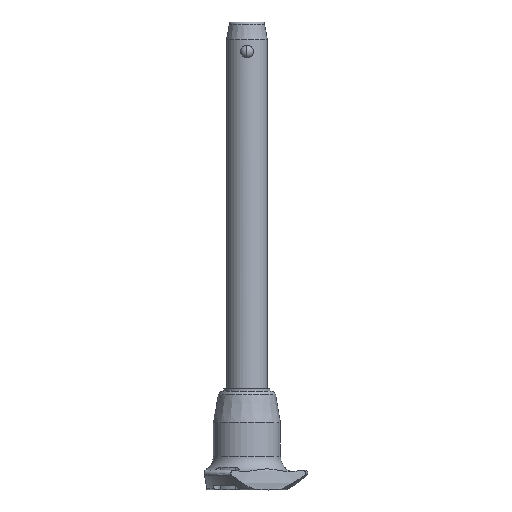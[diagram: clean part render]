
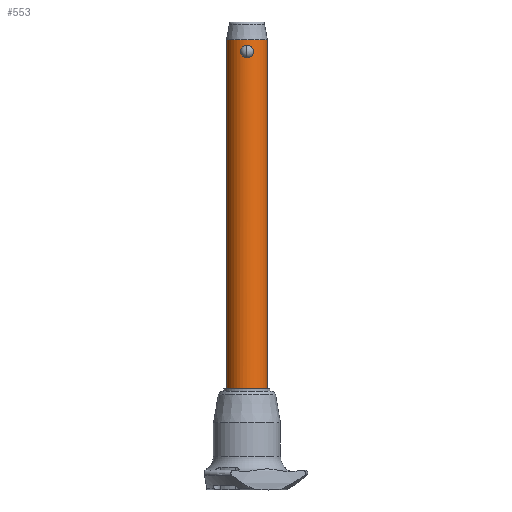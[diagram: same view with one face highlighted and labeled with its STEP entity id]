
A CAD part, front view. The second image highlights one B-rep face of the part: STEP entity #553.
In plain terms, the highlighted cylindrical face has radius 8 mm (diameter 16 mm), a partial arc.
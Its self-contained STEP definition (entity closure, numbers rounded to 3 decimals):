
#3 = CARTESIAN_POINT ( 'NONE',  ( 0.645, -7.976, 4.704 ) ) ;
#39 = CARTESIAN_POINT ( 'NONE',  ( -2.016, -7.746, 0.883 ) ) ;
#50 = CARTESIAN_POINT ( 'NONE',  ( -2.276, -7.67, 3.482 ) ) ;
#67 = CARTESIAN_POINT ( 'NONE',  ( -2.547, -7.584, 2.229 ) ) ;
#143 = CARTESIAN_POINT ( 'NONE',  ( -8., 0., -130. ) ) ;
#169 = DIRECTION ( 'NONE',  ( 1., 0., 0. ) ) ;
#183 = CYLINDRICAL_SURFACE ( 'NONE', #1982, 8. ) ;
#186 = CARTESIAN_POINT ( 'NONE',  ( -8., 0., 7. ) ) ;
#200 = CARTESIAN_POINT ( 'NONE',  ( 0.326, -7.995, 4.761 ) ) ;
#215 = CARTESIAN_POINT ( 'NONE',  ( 1.105, -7.925, 0.226 ) ) ;
#236 = CARTESIAN_POINT ( 'NONE',  ( -8., 0., -130. ) ) ;
#257 = AXIS2_PLACEMENT_3D ( 'NONE', #862, #1530, #1505 ) ;
#278 = ORIENTED_EDGE ( 'NONE', *, *, #306, .T. ) ;
#288 = CARTESIAN_POINT ( 'NONE',  ( -1.658, -7.827, 4.216 ) ) ;
#300 = CARTESIAN_POINT ( 'NONE',  ( 0., -8., 4.775 ) ) ;
#306 = EDGE_CURVE ( 'NONE', #961, #1549, #2758, .T. ) ;
#414 = CARTESIAN_POINT ( 'NONE',  ( 2.275, -7.67, 1.291 ) ) ;
#425 = CARTESIAN_POINT ( 'NONE',  ( 2.194, -7.694, 1.153 ) ) ;
#461 = CARTESIAN_POINT ( 'NONE',  ( -1.659, -7.827, 0.559 ) ) ;
#469 = CIRCLE ( 'NONE', #2840, 8. ) ;
#505 = CARTESIAN_POINT ( 'NONE',  ( 0., -8., 0. ) ) ;
#509 = DIRECTION ( 'NONE',  ( 1., 0., 0. ) ) ;
#525 = B_SPLINE_CURVE_WITH_KNOTS ( 'NONE', 3,
 ( #1882, #2770, #770, #215, #1050, #2415, #633, #1308, #2427, #425, #414, #843, #873, #1740, #1086, #1291, #1950, #1980, #2189, #1765, #2861, #1528, #1515, #860, #2839, #2203, #3, #200, #1069, #1966 ),
 .UNSPECIFIED., .F., .F.,
 ( 4, 2, 2, 2, 2, 2, 2, 2, 2, 2, 2, 2, 2, 2, 4 ),
 ( 0.008, 0.009, 0.009, 0.01, 0.01, 0.011, 0.011, 0.012, 0.012, 0.013, 0.014, 0.014, 0.015, 0.015, 0.016 ),
 .UNSPECIFIED. ) ;
#553 = ADVANCED_FACE ( 'NONE', ( #2833, #565 ), #183, .T. ) ;
#565 = FACE_BOUND ( 'NONE', #2863, .T. ) ;
#633 = CARTESIAN_POINT ( 'NONE',  ( 1.657, -7.827, 0.558 ) ) ;
#653 = CARTESIAN_POINT ( 'NONE',  ( 8., 0., 7. ) ) ;
#683 = CARTESIAN_POINT ( 'NONE',  ( -1.107, -7.924, 4.548 ) ) ;
#708 = CARTESIAN_POINT ( 'NONE',  ( -2.546, -7.584, 2.553 ) ) ;
#770 = CARTESIAN_POINT ( 'NONE',  ( 0.652, -7.979, 0.058 ) ) ;
#822 = CARTESIAN_POINT ( 'NONE',  ( 0., 0., -130. ) ) ;
#843 = CARTESIAN_POINT ( 'NONE',  ( 2.408, -7.629, 1.586 ) ) ;
#860 = CARTESIAN_POINT ( 'NONE',  ( 1.253, -7.903, 4.478 ) ) ;
#862 = CARTESIAN_POINT ( 'NONE',  ( 0., 0., 7. ) ) ;
#873 = CARTESIAN_POINT ( 'NONE',  ( 2.46, -7.613, 1.742 ) ) ;
#908 = CARTESIAN_POINT ( 'NONE',  ( -2.193, -7.694, 3.623 ) ) ;
#935 = CARTESIAN_POINT ( 'NONE',  ( -0.324, -8., 0. ) ) ;
#950 = CARTESIAN_POINT ( 'NONE',  ( -2.461, -7.612, 1.746 ) ) ;
#955 = DIRECTION ( 'NONE',  ( 0., 0., -1. ) ) ;
#961 = VERTEX_POINT ( 'NONE', #653 ) ;
#1006 = DIRECTION ( 'NONE',  ( 0., 0., 1. ) ) ;
#1050 = CARTESIAN_POINT ( 'NONE',  ( 1.252, -7.903, 0.296 ) ) ;
#1069 = CARTESIAN_POINT ( 'NONE',  ( 0.164, -8., 4.775 ) ) ;
#1086 = CARTESIAN_POINT ( 'NONE',  ( 2.546, -7.584, 2.22 ) ) ;
#1128 = CARTESIAN_POINT ( 'NONE',  ( -2.529, -7.59, 2.064 ) ) ;
#1144 = ORIENTED_EDGE ( 'NONE', *, *, #1514, .F. ) ;
#1152 = CARTESIAN_POINT ( 'NONE',  ( -2.003, -7.746, 3.882 ) ) ;
#1161 = CARTESIAN_POINT ( 'NONE',  ( 0., 0., -130. ) ) ;
#1180 = CARTESIAN_POINT ( 'NONE',  ( 0., -8., 4.775 ) ) ;
#1291 = CARTESIAN_POINT ( 'NONE',  ( 2.547, -7.584, 2.549 ) ) ;
#1308 = CARTESIAN_POINT ( 'NONE',  ( 1.894, -7.773, 0.773 ) ) ;
#1346 = CARTESIAN_POINT ( 'NONE',  ( -2.459, -7.613, 3.036 ) ) ;
#1353 = VECTOR ( 'NONE', #2824, 1000. ) ;
#1378 = CARTESIAN_POINT ( 'NONE',  ( -0.645, -7.976, 4.704 ) ) ;
#1404 = EDGE_CURVE ( 'NONE', #2584, #1679, #469, .T. ) ;
#1433 = LINE ( 'NONE', #143, #1353 ) ;
#1462 = EDGE_CURVE ( 'NONE', #2584, #961, #2380, .T. ) ;
#1505 = DIRECTION ( 'NONE',  ( 1., 0., 0. ) ) ;
#1514 = EDGE_CURVE ( 'NONE', #2323, #2026, #525, .T. ) ;
#1515 = CARTESIAN_POINT ( 'NONE',  ( 1.529, -7.854, 4.312 ) ) ;
#1528 = CARTESIAN_POINT ( 'NONE',  ( 1.66, -7.827, 4.215 ) ) ;
#1530 = DIRECTION ( 'NONE',  ( 0., 0., -1. ) ) ;
#1549 = VERTEX_POINT ( 'NONE', #186 ) ;
#1570 = CARTESIAN_POINT ( 'NONE',  ( -1.252, -7.903, 4.479 ) ) ;
#1581 = CARTESIAN_POINT ( 'NONE',  ( -2.211, -7.69, 1.148 ) ) ;
#1595 = CARTESIAN_POINT ( 'NONE',  ( -1.254, -7.902, 0.297 ) ) ;
#1599 = ORIENTED_EDGE ( 'NONE', *, *, #1404, .F. ) ;
#1612 = CARTESIAN_POINT ( 'NONE',  ( -2.411, -7.628, 1.592 ) ) ;
#1679 = VERTEX_POINT ( 'NONE', #236 ) ;
#1740 = CARTESIAN_POINT ( 'NONE',  ( 2.528, -7.59, 2.058 ) ) ;
#1765 = CARTESIAN_POINT ( 'NONE',  ( 2.211, -7.69, 3.626 ) ) ;
#1777 = VECTOR ( 'NONE', #2366, 1000. ) ;
#1786 = EDGE_CURVE ( 'NONE', #1679, #1549, #1433, .T. ) ;
#1788 = CARTESIAN_POINT ( 'NONE',  ( 0., -8., 0. ) ) ;
#1803 = CARTESIAN_POINT ( 'NONE',  ( -1.896, -7.773, 4.001 ) ) ;
#1805 = EDGE_LOOP ( 'NONE', ( #2873, #1599, #2330, #278 ) ) ;
#1834 = CARTESIAN_POINT ( 'NONE',  ( -0.326, -7.995, 4.761 ) ) ;
#1844 = CARTESIAN_POINT ( 'NONE',  ( -1.106, -7.925, 0.226 ) ) ;
#1882 = CARTESIAN_POINT ( 'NONE',  ( 0., -8., 0. ) ) ;
#1950 = CARTESIAN_POINT ( 'NONE',  ( 2.529, -7.59, 2.71 ) ) ;
#1966 = CARTESIAN_POINT ( 'NONE',  ( 0., -8., 4.775 ) ) ;
#1980 = CARTESIAN_POINT ( 'NONE',  ( 2.461, -7.612, 3.027 ) ) ;
#1982 = AXIS2_PLACEMENT_3D ( 'NONE', #822, #1006, #169 ) ;
#2026 = VERTEX_POINT ( 'NONE', #1180 ) ;
#2030 = CARTESIAN_POINT ( 'NONE',  ( -0.164, -8., 4.775 ) ) ;
#2042 = CARTESIAN_POINT ( 'NONE',  ( -2.529, -7.59, 2.716 ) ) ;
#2065 = EDGE_CURVE ( 'NONE', #2026, #2323, #2077, .T. ) ;
#2077 = B_SPLINE_CURVE_WITH_KNOTS ( 'NONE', 3,
 ( #300, #2030, #1834, #1378, #2723, #683, #1570, #2471, #288, #1803, #1152, #908, #50, #2707, #1346, #2042, #708, #67, #1128, #950, #1612, #1581, #39, #461, #2511, #1595, #1844, #2496, #935, #505 ),
 .UNSPECIFIED., .F., .F.,
 ( 4, 2, 2, 2, 2, 2, 2, 2, 2, 2, 2, 2, 2, 2, 4 ),
 ( 0., 0., 0.001, 0.001, 0.002, 0.002, 0.003, 0.003, 0.004, 0.004, 0.005, 0.006, 0.006, 0.007, 0.008 ),
 .UNSPECIFIED. ) ;
#2189 = CARTESIAN_POINT ( 'NONE',  ( 2.41, -7.629, 3.184 ) ) ;
#2203 = CARTESIAN_POINT ( 'NONE',  ( 0.804, -7.961, 4.661 ) ) ;
#2259 = ORIENTED_EDGE ( 'NONE', *, *, #2065, .F. ) ;
#2310 = CARTESIAN_POINT ( 'NONE',  ( 8., 0., -130. ) ) ;
#2323 = VERTEX_POINT ( 'NONE', #1788 ) ;
#2330 = ORIENTED_EDGE ( 'NONE', *, *, #1462, .T. ) ;
#2334 = CARTESIAN_POINT ( 'NONE',  ( 8., 0., -130. ) ) ;
#2366 = DIRECTION ( 'NONE',  ( 0., 0., 1. ) ) ;
#2380 = LINE ( 'NONE', #2334, #1777 ) ;
#2415 = CARTESIAN_POINT ( 'NONE',  ( 1.529, -7.854, 0.463 ) ) ;
#2427 = CARTESIAN_POINT ( 'NONE',  ( 2.004, -7.746, 0.894 ) ) ;
#2471 = CARTESIAN_POINT ( 'NONE',  ( -1.527, -7.854, 4.313 ) ) ;
#2496 = CARTESIAN_POINT ( 'NONE',  ( -0.652, -7.979, 0.058 ) ) ;
#2511 = CARTESIAN_POINT ( 'NONE',  ( -1.53, -7.854, 0.464 ) ) ;
#2584 = VERTEX_POINT ( 'NONE', #2310 ) ;
#2707 = CARTESIAN_POINT ( 'NONE',  ( -2.408, -7.629, 3.189 ) ) ;
#2723 = CARTESIAN_POINT ( 'NONE',  ( -0.803, -7.961, 4.661 ) ) ;
#2758 = CIRCLE ( 'NONE', #257, 8. ) ;
#2770 = CARTESIAN_POINT ( 'NONE',  ( 0.324, -8., 0. ) ) ;
#2824 = DIRECTION ( 'NONE',  ( 0., 0., 1. ) ) ;
#2833 = FACE_OUTER_BOUND ( 'NONE', #1805, .T. ) ;
#2839 = CARTESIAN_POINT ( 'NONE',  ( 1.108, -7.924, 4.548 ) ) ;
#2840 = AXIS2_PLACEMENT_3D ( 'NONE', #1161, #955, #509 ) ;
#2861 = CARTESIAN_POINT ( 'NONE',  ( 2.016, -7.746, 3.891 ) ) ;
#2863 = EDGE_LOOP ( 'NONE', ( #2259, #1144 ) ) ;
#2873 = ORIENTED_EDGE ( 'NONE', *, *, #1786, .F. ) ;
